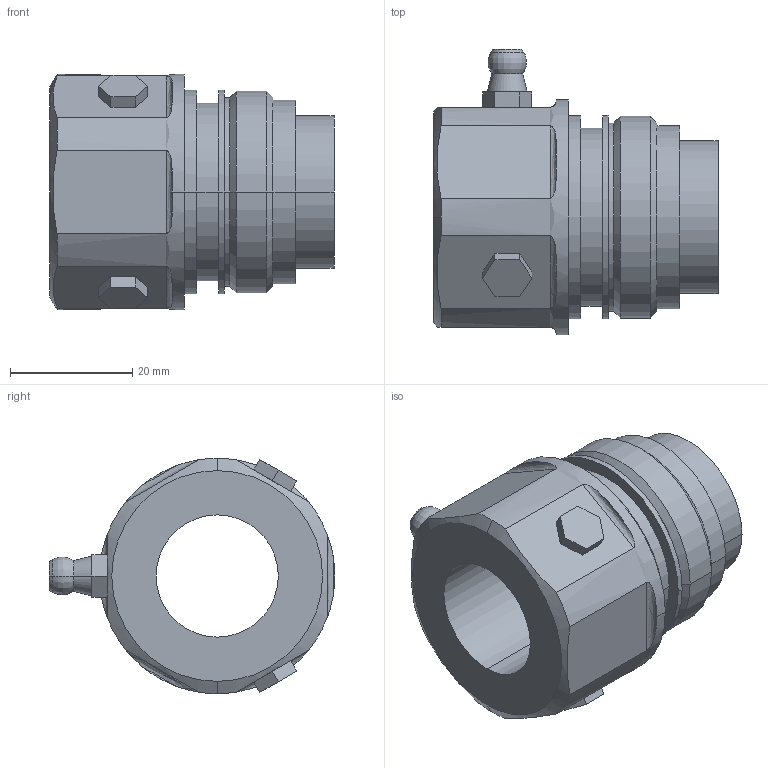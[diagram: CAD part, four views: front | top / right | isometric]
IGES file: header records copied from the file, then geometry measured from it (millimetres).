
Start section:  PTC IGES file: R412027886\r412027886.iges
Global section: file name: R412027886\r412027886.iges; native system: Creo Parametric by PTC Inc.; preprocessor: 2020044; author: THD3HC; organization: Unknown; date: 20230831.143358; units: millimetre
Bounding box: 46.5 x 46.75 x 38.5 mm (x, y, z)
Surface area: 10213 mm2 (no closed solid volume)
Topology: 0 solids, 0 shells, 78 faces, 376 edges, 376 vertices
Faces by surface type: bspline 42, revolution 36
